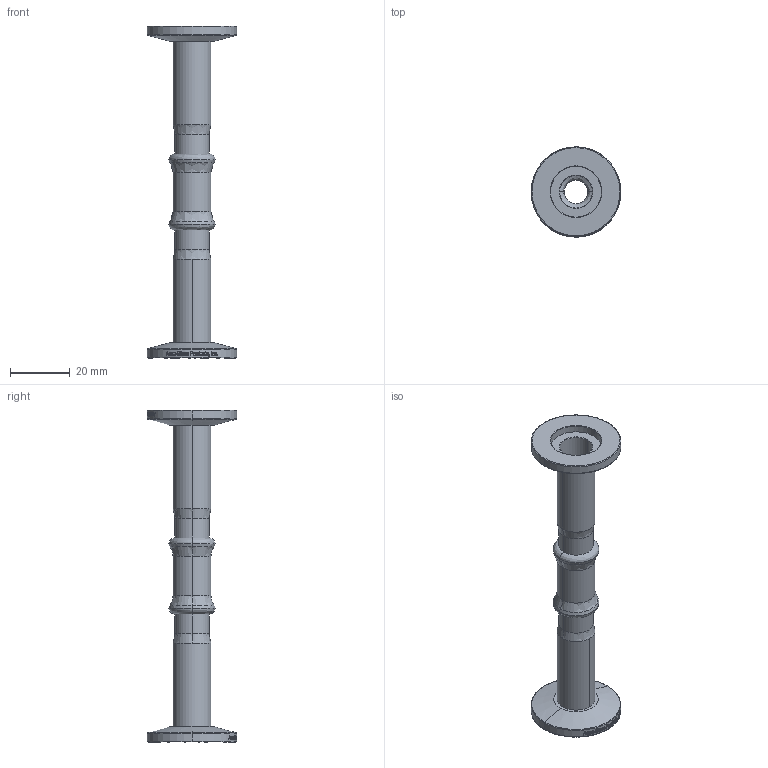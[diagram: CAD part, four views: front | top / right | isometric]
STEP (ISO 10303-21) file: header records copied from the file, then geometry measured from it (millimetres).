
FILE_DESCRIPTION (( 'STEP AP203' ), '1' );
FILE_NAME ('211062.stp', '2018-05-17T18:21:54', ( '' ), ( '' ), 'SwSTEP 2.0', 'SolidWorks 2012', '' );
FILE_SCHEMA (( 'CONFIG_CONTROL_DESIGN' ));
Products named in the file (1): 211062
Bounding box: 29.97 x 29.97 x 111.12 mm (x, y, z)
Volume: 8008.1 mm3; surface area: 11012.9 mm2
Topology: 1 solids, 1 shells, 649 faces, 1707 edges, 1120 vertices
Faces by surface type: bspline 310, plane 234, cylinder 93, cone 12
Entity records: 67946 total; most frequent: CARTESIAN_POINT 54179, ORIENTED_EDGE 3414, DIRECTION 1873, EDGE_CURVE 1707, VERTEX_POINT 1120, B_SPLINE_CURVE_WITH_KNOTS 738, EDGE_LOOP 711, ADVANCED_FACE 649
